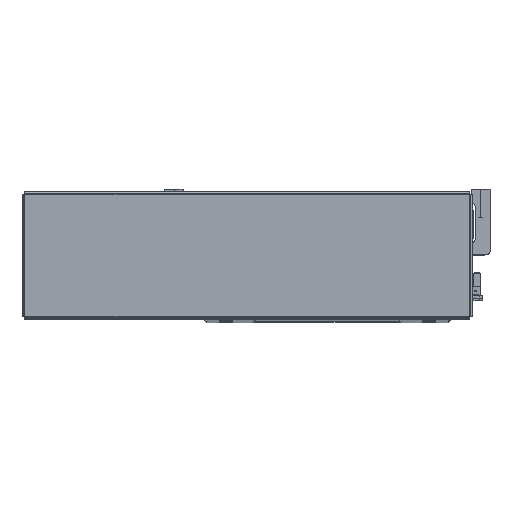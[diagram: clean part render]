
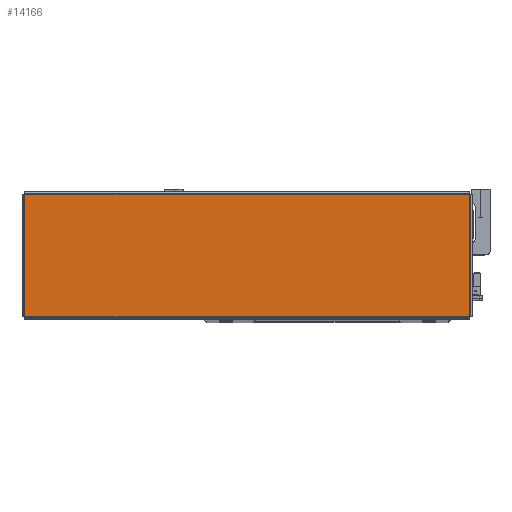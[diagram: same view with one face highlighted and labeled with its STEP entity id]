
A CAD part, top view. The second image highlights one B-rep face of the part: STEP entity #14166.
In plain terms, the highlighted planar face has unit normal (0, 0, 1) as drawn and (0, -1, 0) by its records, which use the part's own axes.
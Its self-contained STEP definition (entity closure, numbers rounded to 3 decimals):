
#2022 = DIRECTION ( 'NONE',  ( 0., 1., 0. ) ) ;
#2023 = DIRECTION ( 'NONE',  ( 0., 0., 1. ) ) ;
#7154 = DIRECTION ( 'NONE',  ( -1., 0., 0. ) ) ;
#7173 = CARTESIAN_POINT ( 'NONE',  ( 154.043, -1.2, 42.263 ) ) ;
#9023 = DIRECTION ( 'NONE',  ( 0., 0., 1. ) ) ;
#9047 = CARTESIAN_POINT ( 'NONE',  ( -154.043, -1.2, -42.263 ) ) ;
#9054 = DIRECTION ( 'NONE',  ( 1., 0., 0. ) ) ;
#9058 = CARTESIAN_POINT ( 'NONE',  ( 154.013, -1.2, -42.293 ) ) ;
#9155 = DIRECTION ( 'NONE',  ( 0., 0., -1. ) ) ;
#9183 = CARTESIAN_POINT ( 'NONE',  ( -154.013, -1.2, 42.293 ) ) ;
#11223 = CARTESIAN_POINT ( 'NONE',  ( 0., -1.2, 0. ) ) ;
#11225 = PLANE ( 'NONE',  #31467 ) ;
#11786 = LINE ( 'NONE', #9047, #11807 ) ;
#11805 = LINE ( 'NONE', #9058, #11814 ) ;
#11807 = VECTOR ( 'NONE', #9054, 1000. ) ;
#11814 = VECTOR ( 'NONE', #9023, 1000. ) ;
#11832 = LINE ( 'NONE', #9183, #11833 ) ;
#11833 = VECTOR ( 'NONE', #9155, 1000. ) ;
#11897 = LINE ( 'NONE', #7173, #11945 ) ;
#11945 = VECTOR ( 'NONE', #7154, 1000. ) ;
#14166 = ADVANCED_FACE ( 'NONE', ( #19532 ), #11225, .F. ) ;
#14830 = CARTESIAN_POINT ( 'NONE',  ( -154.013, -1.2, 42.263 ) ) ;
#14857 = CARTESIAN_POINT ( 'NONE',  ( -154.013, -1.2, -42.263 ) ) ;
#14875 = CARTESIAN_POINT ( 'NONE',  ( 154.013, -1.2, 42.263 ) ) ;
#14884 = CARTESIAN_POINT ( 'NONE',  ( 154.013, -1.2, -42.263 ) ) ;
#16788 = EDGE_CURVE ( 'NONE', #42735, #42728, #11805, .T. ) ;
#16789 = EDGE_CURVE ( 'NONE', #42758, #42735, #11786, .T. ) ;
#16826 = EDGE_CURVE ( 'NONE', #42757, #42758, #11832, .T. ) ;
#16867 = EDGE_CURVE ( 'NONE', #42728, #42757, #11897, .T. ) ;
#19532 = FACE_OUTER_BOUND ( 'NONE', #22773, .T. ) ;
#22773 = EDGE_LOOP ( 'NONE', ( #30780, #30794, #30898, #30786 ) ) ;
#30780 = ORIENTED_EDGE ( 'NONE', *, *, #16788, .T. ) ;
#30786 = ORIENTED_EDGE ( 'NONE', *, *, #16789, .T. ) ;
#30794 = ORIENTED_EDGE ( 'NONE', *, *, #16867, .T. ) ;
#30898 = ORIENTED_EDGE ( 'NONE', *, *, #16826, .T. ) ;
#31467 = AXIS2_PLACEMENT_3D ( 'NONE', #11223, #2022, #2023 ) ;
#42728 = VERTEX_POINT ( 'NONE', #14875 ) ;
#42735 = VERTEX_POINT ( 'NONE', #14884 ) ;
#42757 = VERTEX_POINT ( 'NONE', #14830 ) ;
#42758 = VERTEX_POINT ( 'NONE', #14857 ) ;
